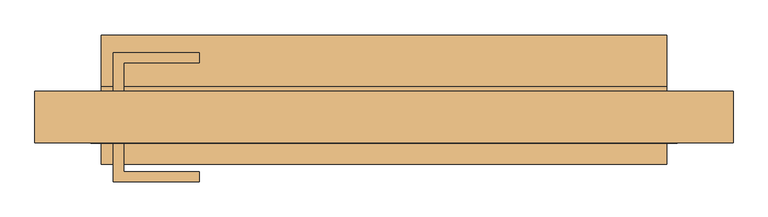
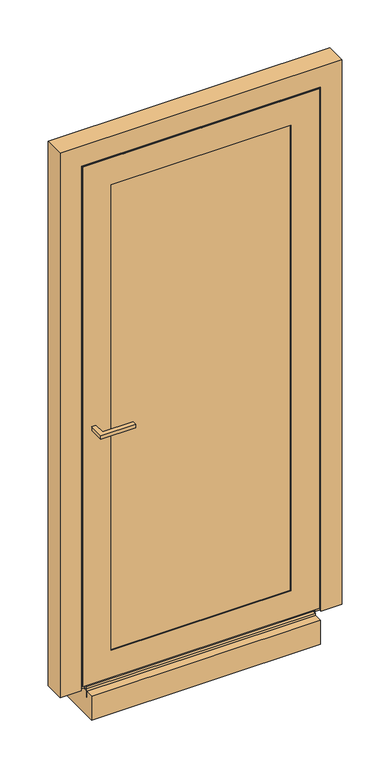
"""IFC4 building model written with IfcOpenShell, lengths in millimetres: door geometry, Reynaers_MasterLine 8_Door_Pivot_Inward Opening_Single Vent_Glass : Reynaers_MasterLine 8_Door_Pivot_Inward Opening_Single Vent_Glass."""

from ifc_helpers import new_model, si_unit, frame, origin, place, context, project, spatial, polyline, circle_curve, ellipse_curve, outline, extrude, faceted_brep, source, transform, mapped, element, save
from ifc_brep_helpers import plane_surface, revolved_surface, advanced_brep


def door_3701fab0(model_context):
    return source(origin(), model_context, "Body", "SolidModel", [
        extrude(outline(polyline([(-403.0, -80.0), (-388.0, -80.0), (-388.0, -122.5), (-275.5, -122.5), (-275.5, -137.5), (-403.0, -137.5), (-403.0, -80.0)])), frame((0.0, 0.0, 1000.0), z_axis=(0.0, 0.0, 1.0), x_axis=(1.0, 0.0, 0.0)), (0.0, 0.0, 1.0), 15.0),
        extrude(outline(polyline([(-403.0, -3.0), (-403.0, 54.5), (-275.5, 54.5), (-275.5, 39.5), (-388.0, 39.5), (-388.0, -3.0), (-403.0, -3.0)])), frame((0.0, 0.0, 1000.0), z_axis=(0.0, 0.0, 1.0), x_axis=(1.0, 0.0, 0.0)), (0.0, 0.0, 1.0), 15.0),
        extrude(outline(polyline([(4.0, -10.0030129), (4.0, -33.0), (81.0, -33.0), (81.0, -103.0), (-110.9534375, -103.0), (-110.9534375, -10.0030129), (4.0, -10.0030129)])), frame((-421.4999998, 0.0, 0.0), z_axis=(1.0, 0.0, 0.0), x_axis=(0.0, 1.0, 0.0)), (0.0, 0.0, 1.0), 842.9999996),
        advanced_brep(
        [(-444.4999999, -71.1998182, 0.0), (-444.4999999, -13.5000019, 0.0), (-447.5000018, -13.5000019, 0.0), (-447.5000018, -4.7990019, 0.0), (-452.5005018, -4.7990019, 0.0), (-452.5005018, -6.8000019, 0.0), (-462.5005018, -6.8000019, 0.0), (-462.5005018, -3.0, 0.0), (-416.5000018, -3.0, 0.0), (-416.5000018, -11.8001867, 0.0), (-418.6670221, -11.8001867, 0.0), (-421.4999998, -12.9155527, 0.0), (-421.4999998, -74.9998182, 0.0), (-423.6999999, -74.9998182, 0.0), (-423.6999999, -71.1998182, 0.0), (200.0, -71.1998182, 2044.4999999), (200.0, -71.1998182, 2023.6999999), (200.0, -74.9998182, 2023.6999999), (200.0, -74.9998182, 2021.4999998), (200.0, -12.9155527, 2021.4999998), (200.0, -11.8001867, 2018.6670221), (200.0, -11.8001867, 2016.5000018), (200.0, -3.0, 2016.5000018), (200.0, -3.0, 2047.5000018), (200.0, -13.5000019, 2047.5000018), (200.0, -13.5000019, 2044.4999999), (-423.6999999, -71.1998182, 2023.6999999), (-423.6999999, -74.9998182, 2023.6999999), (-421.4999998, -74.9998182, 2021.4999998), (-421.4999998, -12.9155527, 2021.4999998), (-418.6670221, -11.8001867, 2018.6670221), (-416.5000018, -11.8001867, 2016.5000018), (-416.5000018, -3.0, 2016.5000018), (-462.5005018, -6.8000019, 2062.5005018), (123.0, -6.8000019, 2062.5005018), (123.0, -3.0, 2062.5005018), (-462.5005018, -3.0, 2062.5005018), (-452.5005018, -4.7990019, 2052.5005018), (123.0, -4.7990019, 2052.5005018), (123.0, -6.8000019, 2052.5005018), (-452.5005018, -6.8000019, 2052.5005018), (123.0, -3.0, 2047.5000018), (123.0, -4.7990019, 2047.5000018), (-447.5000018, -4.7990019, 2047.5000018), (-447.5000018, -13.5000019, 2047.5000018), (-444.4999999, -13.5000019, 2044.4999999), (-444.4999999, -71.1998182, 2044.4999999)],
        [
            (0, 1),
            (1, 2),
            (2, 3),
            (3, 4),
            (4, 5),
            (5, 6),
            (6, 7),
            (7, 8),
            (8, 9),
            (9, 10),
            (10, 11, circle_curve(frame((-420.500002, -11.3000019, 0.0), z_axis=(0.0, 0.0, 1.0), x_axis=(1.0, 0.0, 0.0)), 1.9)),
            (11, 12),
            (12, 13),
            (13, 14),
            (14, 0),
            (15, 16),
            (16, 17),
            (17, 18),
            (18, 19),
            (19, 20, circle_curve(frame((200.0, -11.3000019, 2020.500002), z_axis=(-1.0, 0.0, 0.0), x_axis=(0.0, 0.0, -1.0)), 1.9)),
            (20, 21),
            (21, 22),
            (22, 23),
            (23, 24),
            (24, 25),
            (25, 15),
            (16, 26),
            (26, 27),
            (27, 17),
            (18, 28),
            (28, 29),
            (29, 19),
            (29, 30, ellipse_curve(frame((-420.500002, -11.3000019, 2020.500002), z_axis=(-0.7071067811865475, 0.0, -0.7071067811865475), x_axis=(0.7071067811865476, 0.0, -0.7071067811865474)), 2.6870058, 1.9)),
            (30, 20),
            (21, 31),
            (31, 32),
            (32, 22),
            (33, 34),
            (34, 35),
            (35, 36),
            (36, 33),
            (37, 38),
            (38, 39),
            (39, 40),
            (40, 37),
            (23, 41),
            (41, 42),
            (42, 43),
            (43, 44),
            (44, 24),
            (25, 45),
            (45, 46),
            (46, 15),
            (14, 26),
            (46, 0),
            (13, 27),
            (12, 28),
            (11, 29),
            (10, 30),
            (9, 31),
            (8, 32),
            (7, 36),
            (35, 41),
            (6, 33),
            (5, 40),
            (39, 34),
            (4, 37),
            (3, 43),
            (42, 38),
            (2, 44),
            (1, 45),
        ],
        [
            plane_surface(frame((-436.5, -3.0, 0.0), z_axis=(0.0, 0.0, -1.0), x_axis=(0.0, -1.0, 0.0))),
            plane_surface(frame((200.0, -3.0, 2036.5), z_axis=(1.0, 0.0, 0.0), x_axis=(0.0, -1.0, 0.0))),
            plane_surface(frame((-423.6999999, -71.1998182, 2023.6999999), z_axis=(0.0, 0.0, 1.0), x_axis=(1.0, 0.0, 0.0))),
            plane_surface(frame((-421.4999998, -74.9998182, 2021.4999998), z_axis=(0.0, 0.0, -1.0), x_axis=(1.0, 0.0, 0.0))),
            revolved_surface(polyline([(200.0, -11.3000019, 2018.600002), (-422.4000020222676, -11.3000019, 2018.600002)]), (-436.5, -11.3000019, 2020.500002), (1.0, 0.0, 0.0)),
            plane_surface(frame((-416.5000018, -11.8001867, 2016.5000018), z_axis=(0.0, 0.0, -1.0), x_axis=(1.0, 0.0, 0.0))),
            plane_surface(frame((-462.5005018, -3.0, 2062.5005018), z_axis=(0.0, 0.0, 1.0), x_axis=(1.0, 0.0, 0.0))),
            plane_surface(frame((-452.5005018, -6.8000019, 2052.5005018), z_axis=(0.0, 0.0, -1.0), x_axis=(1.0, 0.0, 0.0))),
            plane_surface(frame((-447.5000018, -4.7990019, 2047.5000018), z_axis=(0.0, 0.0, 1.0), x_axis=(1.0, 0.0, 0.0))),
            plane_surface(frame((-444.4999999, -13.5000019, 2044.4999999), z_axis=(0.0, 0.0, 1.0), x_axis=(1.0, 0.0, 0.0))),
            plane_surface(frame((-444.4999999, -71.1998182, 0.0), z_axis=(0.0, -1.0, 0.0), x_axis=(0.0, 0.0, 1.0))),
            plane_surface(frame((-423.6999999, -71.1998182, 0.0), z_axis=(-1.0, 0.0, 0.0), x_axis=(0.0, 0.0, 1.0))),
            plane_surface(frame((-423.6999999, -74.9998182, 0.0), z_axis=(0.0, -1.0, 0.0), x_axis=(0.0, 0.0, 1.0))),
            plane_surface(frame((-421.4999998, -74.9998182, 0.0), z_axis=(1.0, 0.0, 0.0), x_axis=(0.0, 0.0, 1.0))),
            revolved_surface(polyline([(-418.600002, -11.3000019, 2022.4000020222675), (-418.600002, -11.3000019, 0.0)]), (-420.500002, -11.3000019, 0.0), (0.0, 0.0, 1.0)),
            plane_surface(frame((-418.6670221, -11.8001867, 0.0), z_axis=(0.0, -1.0, 0.0), x_axis=(0.0, 0.0, 1.0))),
            plane_surface(frame((-416.5000018, -11.8001867, 0.0), z_axis=(1.0, 0.0, 0.0), x_axis=(0.0, 0.0, 1.0))),
            plane_surface(frame((-416.5000018, -3.0, 0.0), z_axis=(0.0, 1.0, 0.0), x_axis=(0.0, 0.0, 1.0))),
            plane_surface(frame((-462.5005018, -3.0, 0.0), z_axis=(-1.0, 0.0, 0.0), x_axis=(0.0, 0.0, 1.0))),
            plane_surface(frame((-462.5005018, -6.8000019, 0.0), z_axis=(0.0, -1.0, 0.0), x_axis=(0.0, 0.0, 1.0))),
            plane_surface(frame((-452.5005018, -6.8000019, 0.0), z_axis=(1.0, 0.0, 0.0), x_axis=(0.0, 0.0, 1.0))),
            plane_surface(frame((-452.5005018, -4.7990019, 0.0), z_axis=(0.0, -1.0, 0.0), x_axis=(0.0, 0.0, 1.0))),
            plane_surface(frame((-447.5000018, -4.7990019, 0.0), z_axis=(-1.0, 0.0, 0.0), x_axis=(0.0, 0.0, 1.0))),
            plane_surface(frame((-447.5000018, -13.5000019, 0.0), z_axis=(0.0, -1.0, 0.0), x_axis=(0.0, 0.0, 1.0))),
            plane_surface(frame((-444.4999999, -13.5000019, 0.0), z_axis=(-1.0, 0.0, 0.0), x_axis=(0.0, 0.0, 1.0))),
            plane_surface(frame((123.0, -3.0, 2036.5), z_axis=(1.0, 0.0, 0.0), x_axis=(0.0, -1.0, 0.0))),
        ],
        [
            (0, [[1, 2, 3, 4, 5, 6, 7, 8, 9, 10, 11, 12, 13, 14, 15]]),
            (1, [[16, 17, 18, 19, 20, 21, 22, 23, 24, 25, 26]]),
            (2, [[27, 28, 29, -17]]),
            (3, [[30, 31, 32, -19]]),
            (4, [[-32, 33, 34, -20]]),
            (5, [[35, 36, 37, -22]]),
            (6, [[38, 39, 40, 41]]),
            (7, [[42, 43, 44, 45]]),
            (8, [[-24, 46, 47, 48, 49, 50]]),
            (9, [[51, 52, 53, -26]]),
            (10, [[54, -27, -16, -53, 55, -15]]),
            (11, [[56, -28, -54, -14]]),
            (12, [[57, -30, -18, -29, -56, -13]]),
            (13, [[58, -31, -57, -12]]),
            (14, [[59, -33, -58, -11]]),
            (15, [[60, -35, -21, -34, -59, -10]]),
            (16, [[61, -36, -60, -9]]),
            (17, [[62, -40, 63, -46, -23, -37, -61, -8]]),
            (18, [[64, -41, -62, -7]]),
            (19, [[65, -44, 66, -38, -64, -6]]),
            (20, [[67, -45, -65, -5]]),
            (21, [[68, -48, 69, -42, -67, -4]]),
            (22, [[70, -49, -68, -3]]),
            (23, [[71, -51, -25, -50, -70, -2]]),
            (24, [[-55, -52, -71, -1]]),
            (25, [[-63, -39, -66, -43, -69, -47]]),
        ],
    ),
        advanced_brep(
        [(-444.4999999, -71.1998182, 0.0), (-444.4999999, -13.5000019, 0.0), (-447.5000018, -13.5000019, 0.0), (-447.5000018, -4.7990019, 0.0), (-452.5005018, -4.7990019, 0.0), (-452.5005018, -6.8000019, 0.0), (-462.5005018, -6.8000019, 0.0), (-462.5005018, -3.0, 0.0), (-416.5000018, -3.0, 0.0), (-416.5000018, -11.8001867, 0.0), (-418.6670221, -11.8001867, 0.0), (-421.4999998, -12.9155527, 0.0), (-421.4999998, -74.9998182, 0.0), (-423.6999999, -74.9998182, 0.0), (-423.6999999, -71.1998182, 0.0), (200.0, -71.1998182, 2044.4999999), (200.0, -71.1998182, 2023.6999999), (200.0, -74.9998182, 2023.6999999), (200.0, -74.9998182, 2021.4999998), (200.0, -12.9155527, 2021.4999998), (200.0, -11.8001867, 2018.6670221), (200.0, -11.8001867, 2016.5000018), (200.0, -3.0, 2016.5000018), (200.0, -3.0, 2047.5000018), (200.0, -13.5000019, 2047.5000018), (200.0, -13.5000019, 2044.4999999), (-423.6999999, -71.1998182, 2023.6999999), (-423.6999999, -74.9998182, 2023.6999999), (-421.4999998, -74.9998182, 2021.4999998), (-421.4999998, -12.9155527, 2021.4999998), (-418.6670221, -11.8001867, 2018.6670221), (-416.5000018, -11.8001867, 2016.5000018), (-416.5000018, -3.0, 2016.5000018), (-462.5005018, -6.8000019, 2062.5005018), (123.0, -6.8000019, 2062.5005018), (123.0, -3.0, 2062.5005018), (-462.5005018, -3.0, 2062.5005018), (-452.5005018, -4.7990019, 2052.5005018), (123.0, -4.7990019, 2052.5005018), (123.0, -6.8000019, 2052.5005018), (-452.5005018, -6.8000019, 2052.5005018), (123.0, -3.0, 2047.5000018), (123.0, -4.7990019, 2047.5000018), (-447.5000018, -4.7990019, 2047.5000018), (-447.5000018, -13.5000019, 2047.5000018), (-444.4999999, -13.5000019, 2044.4999999), (-444.4999999, -71.1998182, 2044.4999999)],
        [
            (0, 1),
            (1, 2),
            (2, 3),
            (3, 4),
            (4, 5),
            (5, 6),
            (6, 7),
            (7, 8),
            (8, 9),
            (9, 10),
            (10, 11, circle_curve(frame((-420.500002, -11.3000019, 0.0), z_axis=(0.0, 0.0, 1.0), x_axis=(1.0, 0.0, 0.0)), 1.9)),
            (11, 12),
            (12, 13),
            (13, 14),
            (14, 0),
            (15, 16),
            (16, 17),
            (17, 18),
            (18, 19),
            (19, 20, circle_curve(frame((200.0, -11.3000019, 2020.500002), z_axis=(-1.0, 0.0, 0.0), x_axis=(0.0, 0.0, -1.0)), 1.9)),
            (20, 21),
            (21, 22),
            (22, 23),
            (23, 24),
            (24, 25),
            (25, 15),
            (16, 26),
            (26, 27),
            (27, 17),
            (18, 28),
            (28, 29),
            (29, 19),
            (29, 30, ellipse_curve(frame((-420.500002, -11.3000019, 2020.500002), z_axis=(-0.7071067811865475, 0.0, -0.7071067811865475), x_axis=(0.7071067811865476, 0.0, -0.7071067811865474)), 2.6870058, 1.9)),
            (30, 20),
            (21, 31),
            (31, 32),
            (32, 22),
            (33, 34),
            (34, 35),
            (35, 36),
            (36, 33),
            (37, 38),
            (38, 39),
            (39, 40),
            (40, 37),
            (23, 41),
            (41, 42),
            (42, 43),
            (43, 44),
            (44, 24),
            (25, 45),
            (45, 46),
            (46, 15),
            (14, 26),
            (46, 0),
            (13, 27),
            (12, 28),
            (11, 29),
            (10, 30),
            (9, 31),
            (8, 32),
            (7, 36),
            (35, 41),
            (6, 33),
            (5, 40),
            (39, 34),
            (4, 37),
            (3, 43),
            (42, 38),
            (2, 44),
            (1, 45),
        ],
        [
            plane_surface(frame((-436.5, -3.0, 0.0), z_axis=(0.0, 0.0, -1.0), x_axis=(0.0, -1.0, 0.0))),
            plane_surface(frame((200.0, -3.0, 2036.5), z_axis=(1.0, 0.0, 0.0), x_axis=(0.0, -1.0, 0.0))),
            plane_surface(frame((-423.6999999, -71.1998182, 2023.6999999), z_axis=(0.0, 0.0, 1.0), x_axis=(1.0, 0.0, 0.0))),
            plane_surface(frame((-421.4999998, -74.9998182, 2021.4999998), z_axis=(0.0, 0.0, -1.0), x_axis=(1.0, 0.0, 0.0))),
            revolved_surface(polyline([(200.0, -11.3000019, 2018.600002), (-422.4000020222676, -11.3000019, 2018.600002)]), (-436.5, -11.3000019, 2020.500002), (1.0, 0.0, 0.0)),
            plane_surface(frame((-416.5000018, -11.8001867, 2016.5000018), z_axis=(0.0, 0.0, -1.0), x_axis=(1.0, 0.0, 0.0))),
            plane_surface(frame((-462.5005018, -3.0, 2062.5005018), z_axis=(0.0, 0.0, 1.0), x_axis=(1.0, 0.0, 0.0))),
            plane_surface(frame((-452.5005018, -6.8000019, 2052.5005018), z_axis=(0.0, 0.0, -1.0), x_axis=(1.0, 0.0, 0.0))),
            plane_surface(frame((-447.5000018, -4.7990019, 2047.5000018), z_axis=(0.0, 0.0, 1.0), x_axis=(1.0, 0.0, 0.0))),
            plane_surface(frame((-444.4999999, -13.5000019, 2044.4999999), z_axis=(0.0, 0.0, 1.0), x_axis=(1.0, 0.0, 0.0))),
            plane_surface(frame((-444.4999999, -71.1998182, 0.0), z_axis=(0.0, -1.0, 0.0), x_axis=(0.0, 0.0, 1.0))),
            plane_surface(frame((-423.6999999, -71.1998182, 0.0), z_axis=(-1.0, 0.0, 0.0), x_axis=(0.0, 0.0, 1.0))),
            plane_surface(frame((-423.6999999, -74.9998182, 0.0), z_axis=(0.0, -1.0, 0.0), x_axis=(0.0, 0.0, 1.0))),
            plane_surface(frame((-421.4999998, -74.9998182, 0.0), z_axis=(1.0, 0.0, 0.0), x_axis=(0.0, 0.0, 1.0))),
            revolved_surface(polyline([(-418.600002, -11.3000019, 2022.4000020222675), (-418.600002, -11.3000019, 0.0)]), (-420.500002, -11.3000019, 0.0), (0.0, 0.0, 1.0)),
            plane_surface(frame((-418.6670221, -11.8001867, 0.0), z_axis=(0.0, -1.0, 0.0), x_axis=(0.0, 0.0, 1.0))),
            plane_surface(frame((-416.5000018, -11.8001867, 0.0), z_axis=(1.0, 0.0, 0.0), x_axis=(0.0, 0.0, 1.0))),
            plane_surface(frame((-416.5000018, -3.0, 0.0), z_axis=(0.0, 1.0, 0.0), x_axis=(0.0, 0.0, 1.0))),
            plane_surface(frame((-462.5005018, -3.0, 0.0), z_axis=(-1.0, 0.0, 0.0), x_axis=(0.0, 0.0, 1.0))),
            plane_surface(frame((-462.5005018, -6.8000019, 0.0), z_axis=(0.0, -1.0, 0.0), x_axis=(0.0, 0.0, 1.0))),
            plane_surface(frame((-452.5005018, -6.8000019, 0.0), z_axis=(1.0, 0.0, 0.0), x_axis=(0.0, 0.0, 1.0))),
            plane_surface(frame((-452.5005018, -4.7990019, 0.0), z_axis=(0.0, -1.0, 0.0), x_axis=(0.0, 0.0, 1.0))),
            plane_surface(frame((-447.5000018, -4.7990019, 0.0), z_axis=(-1.0, 0.0, 0.0), x_axis=(0.0, 0.0, 1.0))),
            plane_surface(frame((-447.5000018, -13.5000019, 0.0), z_axis=(0.0, -1.0, 0.0), x_axis=(0.0, 0.0, 1.0))),
            plane_surface(frame((-444.4999999, -13.5000019, 0.0), z_axis=(-1.0, 0.0, 0.0), x_axis=(0.0, 0.0, 1.0))),
            plane_surface(frame((123.0, -3.0, 2036.5), z_axis=(1.0, 0.0, 0.0), x_axis=(0.0, -1.0, 0.0))),
        ],
        [
            (0, [[1, 2, 3, 4, 5, 6, 7, 8, 9, 10, 11, 12, 13, 14, 15]]),
            (1, [[16, 17, 18, 19, 20, 21, 22, 23, 24, 25, 26]]),
            (2, [[27, 28, 29, -17]]),
            (3, [[30, 31, 32, -19]]),
            (4, [[-32, 33, 34, -20]]),
            (5, [[35, 36, 37, -22]]),
            (6, [[38, 39, 40, 41]]),
            (7, [[42, 43, 44, 45]]),
            (8, [[-24, 46, 47, 48, 49, 50]]),
            (9, [[51, 52, 53, -26]]),
            (10, [[54, -27, -16, -53, 55, -15]]),
            (11, [[56, -28, -54, -14]]),
            (12, [[57, -30, -18, -29, -56, -13]]),
            (13, [[58, -31, -57, -12]]),
            (14, [[59, -33, -58, -11]]),
            (15, [[60, -35, -21, -34, -59, -10]]),
            (16, [[61, -36, -60, -9]]),
            (17, [[62, -40, 63, -46, -23, -37, -61, -8]]),
            (18, [[64, -41, -62, -7]]),
            (19, [[65, -44, 66, -38, -64, -6]]),
            (20, [[67, -45, -65, -5]]),
            (21, [[68, -48, 69, -42, -67, -4]]),
            (22, [[70, -49, -68, -3]]),
            (23, [[71, -51, -25, -50, -70, -2]]),
            (24, [[-55, -52, -71, -1]]),
            (25, [[-63, -39, -66, -43, -69, -47]]),
        ],
    ),
        advanced_brep(
        [(123.0, -3.0, 2062.5005018), (123.0, -3.0, 2047.5000018), (123.0, -4.7990019, 2047.5000018), (123.0, -4.7990019, 2052.5005018), (123.0, -6.8000019, 2052.5005018), (123.0, -6.8000019, 2062.5005018), (444.4999999, -71.1998182, 0.0), (423.6999999, -71.1998182, 0.0), (423.6999999, -74.9998182, 0.0), (421.4999998, -74.9998182, 0.0), (421.4999998, -12.9155527, 0.0), (418.6670221, -11.8001867, 0.0), (416.5000018, -11.8001867, 0.0), (416.5000018, -3.0, 0.0), (462.5005018, -3.0, 0.0), (462.5005018, -6.8000019, 0.0), (452.5005018, -6.8000019, 0.0), (452.5005018, -4.7990019, 0.0), (447.5000018, -4.7990019, 0.0), (447.5000018, -13.5000019, 0.0), (444.4999999, -13.5000019, 0.0), (444.4999999, -71.1998182, 2044.4999999), (200.0, -71.1998182, 2044.4999999), (200.0, -71.1998182, 2023.6999999), (423.6999999, -71.1998182, 2023.6999999), (200.0, -74.9998182, 2023.6999999), (423.6999999, -74.9998182, 2023.6999999), (200.0, -74.9998182, 2021.4999998), (421.4999998, -74.9998182, 2021.4999998), (200.0, -12.9155527, 2021.4999998), (421.4999998, -12.9155527, 2021.4999998), (200.0, -11.8001867, 2018.6670221), (418.6670221, -11.8001867, 2018.6670221), (200.0, -11.8001867, 2016.5000018), (416.5000018, -11.8001867, 2016.5000018), (200.0, -3.0, 2016.5000018), (416.5000018, -3.0, 2016.5000018), (200.0, -3.0, 2047.5000018), (462.5005018, -3.0, 2062.5005018), (462.5005018, -6.8000019, 2062.5005018), (452.5005018, -6.8000019, 2052.5005018), (452.5005018, -4.7990019, 2052.5005018), (200.0, -4.7990019, 2047.5000018), (447.5000018, -4.7990019, 2047.5000018), (200.0, -13.5000019, 2047.5000018), (447.5000018, -13.5000019, 2047.5000018), (200.0, -13.5000019, 2044.4999999), (444.4999999, -13.5000019, 2044.4999999)],
        [
            (0, 1),
            (1, 2),
            (2, 3),
            (3, 4),
            (4, 5),
            (5, 0),
            (6, 7),
            (7, 8),
            (8, 9),
            (9, 10),
            (10, 11, circle_curve(frame((420.500002, -11.3000019, 0.0), z_axis=(0.0, 0.0, 1.0), x_axis=(-1.0, 0.0, 0.0)), 1.9)),
            (11, 12),
            (12, 13),
            (13, 14),
            (14, 15),
            (15, 16),
            (16, 17),
            (17, 18),
            (18, 19),
            (19, 20),
            (20, 6),
            (6, 21),
            (21, 22),
            (22, 23),
            (23, 24),
            (24, 7),
            (23, 25),
            (25, 26),
            (26, 24),
            (8, 26),
            (25, 27),
            (27, 28),
            (28, 9),
            (27, 29),
            (29, 30),
            (30, 28),
            (29, 31, circle_curve(frame((200.0, -11.3000019, 2020.500002), z_axis=(-1.0, 0.0, 0.0), x_axis=(0.0, 0.0, -1.0)), 1.9)),
            (31, 32),
            (32, 30, ellipse_curve(frame((420.500002, -11.3000019, 2020.500002), z_axis=(0.7071067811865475, 0.0, -0.7071067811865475), x_axis=(0.7071067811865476, 0.0, 0.7071067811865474)), 2.6870058, 1.9)),
            (11, 32),
            (31, 33),
            (33, 34),
            (34, 12),
            (33, 35),
            (35, 36),
            (36, 34),
            (13, 36),
            (35, 37),
            (37, 1),
            (0, 38),
            (38, 14),
            (5, 39),
            (39, 38),
            (4, 40),
            (40, 16),
            (15, 39),
            (3, 41),
            (41, 40),
            (2, 42),
            (42, 43),
            (43, 18),
            (17, 41),
            (42, 44),
            (44, 45),
            (45, 43),
            (19, 45),
            (44, 46),
            (46, 47),
            (47, 20),
            (46, 22),
            (21, 47),
            (30, 10),
            (42, 37),
        ],
        [
            plane_surface(frame((123.0, -3.0, 2036.5), z_axis=(-1.0, 0.0, 0.0), x_axis=(0.0, -1.0, 0.0))),
            plane_surface(frame((436.5, -3.0, 0.0), z_axis=(0.0, 0.0, -1.0), x_axis=(0.0, -1.0, 0.0))),
            plane_surface(frame((123.0, -71.1998182, 2044.4999999), z_axis=(0.0, -1.0, 0.0), x_axis=(1.0, 0.0, 0.0))),
            plane_surface(frame((123.0, -71.1998182, 2023.6999999), z_axis=(0.0, 0.0, 1.0), x_axis=(1.0, 0.0, 0.0))),
            plane_surface(frame((123.0, -74.9998182, 2023.6999999), z_axis=(0.0, -1.0, 0.0), x_axis=(1.0, 0.0, 0.0))),
            plane_surface(frame((123.0, -74.9998182, 2021.4999998), z_axis=(0.0, 0.0, -1.0), x_axis=(1.0, 0.0, 0.0))),
            revolved_surface(polyline([(422.4000020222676, -11.3000019, 2018.600002), (200.0, -11.3000019, 2018.600002)]), (123.0, -11.3000019, 2020.500002), (1.0, 0.0, 0.0)),
            plane_surface(frame((123.0, -11.8001867, 2018.6670221), z_axis=(0.0, -1.0, 0.0), x_axis=(1.0, 0.0, 0.0))),
            plane_surface(frame((123.0, -11.8001867, 2016.5000018), z_axis=(0.0, 0.0, -1.0), x_axis=(1.0, 0.0, 0.0))),
            plane_surface(frame((123.0, -3.0, 2016.5000018), z_axis=(0.0, 1.0, 0.0), x_axis=(1.0, 0.0, 0.0))),
            plane_surface(frame((123.0, -3.0, 2062.5005018), z_axis=(0.0, 0.0, 1.0), x_axis=(1.0, 0.0, 0.0))),
            plane_surface(frame((123.0, -6.8000019, 2062.5005018), z_axis=(0.0, -1.0, 0.0), x_axis=(1.0, 0.0, 0.0))),
            plane_surface(frame((123.0, -6.8000019, 2052.5005018), z_axis=(0.0, 0.0, -1.0), x_axis=(1.0, 0.0, 0.0))),
            plane_surface(frame((123.0, -4.7990019, 2052.5005018), z_axis=(0.0, -1.0, 0.0), x_axis=(1.0, 0.0, 0.0))),
            plane_surface(frame((123.0, -4.7990019, 2047.5000018), z_axis=(0.0, 0.0, 1.0), x_axis=(1.0, 0.0, 0.0))),
            plane_surface(frame((123.0, -13.5000019, 2047.5000018), z_axis=(0.0, -1.0, 0.0), x_axis=(1.0, 0.0, 0.0))),
            plane_surface(frame((123.0, -13.5000019, 2044.4999999), z_axis=(0.0, 0.0, 1.0), x_axis=(1.0, 0.0, 0.0))),
            plane_surface(frame((423.6999999, -71.1998182, 2023.6999999), z_axis=(1.0, 0.0, 0.0), x_axis=(0.0, 0.0, -1.0))),
            plane_surface(frame((421.4999998, -74.9998182, 2021.4999998), z_axis=(-1.0, 0.0, 0.0), x_axis=(0.0, 0.0, -1.0))),
            revolved_surface(polyline([(418.600002, -11.3000019, 0.0), (418.600002, -11.3000019, 2022.4000020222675)]), (420.500002, -11.3000019, 2036.5), (0.0, 0.0, -1.0)),
            plane_surface(frame((416.5000018, -11.8001867, 2016.5000018), z_axis=(-1.0, 0.0, 0.0), x_axis=(0.0, 0.0, -1.0))),
            plane_surface(frame((462.5005018, -3.0, 2062.5005018), z_axis=(1.0, 0.0, 0.0), x_axis=(0.0, 0.0, -1.0))),
            plane_surface(frame((452.5005018, -6.8000019, 2052.5005018), z_axis=(-1.0, 0.0, 0.0), x_axis=(0.0, 0.0, -1.0))),
            plane_surface(frame((447.5000018, -4.7990019, 2047.5000018), z_axis=(1.0, 0.0, 0.0), x_axis=(0.0, 0.0, -1.0))),
            plane_surface(frame((444.4999999, -13.5000019, 2044.4999999), z_axis=(1.0, 0.0, 0.0), x_axis=(0.0, 0.0, -1.0))),
            plane_surface(frame((200.0, -3.0, 2036.5), z_axis=(-1.0, 0.0, 0.0), x_axis=(0.0, -1.0, 0.0))),
            plane_surface(frame((123.0, -3.0, 2047.5000018), z_axis=(0.0, 0.0, -1.0), x_axis=(1.0, 0.0, 0.0))),
        ],
        [
            (0, [[1, 2, 3, 4, 5, 6]]),
            (1, [[7, 8, 9, 10, 11, 12, 13, 14, 15, 16, 17, 18, 19, 20, 21]]),
            (2, [[22, 23, 24, 25, 26, -7]]),
            (3, [[-25, 27, 28, 29]]),
            (4, [[30, -28, 31, 32, 33, -9]]),
            (5, [[-32, 34, 35, 36]]),
            (6, [[-35, 37, 38, 39]]),
            (7, [[40, -38, 41, 42, 43, -12]]),
            (8, [[-42, 44, 45, 46]]),
            (9, [[47, -45, 48, 49, -1, 50, 51, -14]]),
            (10, [[52, 53, -50, -6]]),
            (11, [[54, 55, -16, 56, -52, -5]]),
            (12, [[57, 58, -54, -4]]),
            (13, [[59, 60, 61, -18, 62, -57, -3]]),
            (14, [[-60, 63, 64, 65]]),
            (15, [[66, -64, 67, 68, 69, -20]]),
            (16, [[-68, 70, -23, 71]]),
            (17, [[-26, -29, -30, -8]]),
            (18, [[-33, -36, 72, -10]]),
            (19, [[-72, -39, -40, -11]]),
            (20, [[-43, -46, -47, -13]]),
            (21, [[-51, -53, -56, -15]]),
            (22, [[-55, -58, -62, -17]]),
            (23, [[-61, -65, -66, -19]]),
            (24, [[-69, -71, -22, -21]]),
            (25, [[-48, -44, -41, -37, -34, -31, -27, -24, -70, -67, -63, 73]]),
            (26, [[-59, -2, -49, -73]]),
        ],
    ),
        extrude(outline(polyline([(-3.0, 40.0000014), (-3.0, 7.0), (-4.5999991, 7.0), (-4.5999991, 20.9999991), (-40.5000003, 20.9999991), (-40.5000003, 29.0000002), (-11.8001867, 29.0000002), (-11.8001867, 40.0000014), (-3.0, 40.0000014)])), frame((-410.4999986, 0.0, 0.0), z_axis=(1.0, 0.0, 0.0), x_axis=(0.0, 1.0, 0.0)), (0.0, 0.0, 1.0), 820.9999971),
        extrude(outline(polyline([(91.5, 359.0), (1959.0, 359.0), (1959.0, -359.0), (91.5, -359.0), (91.5, 359.0)]), holes=[polyline([(116.5000004, -333.9999996), (1933.9999996, -333.9999996), (1933.9999996, 333.9999996), (116.5000004, 333.9999996), (116.5000004, -333.9999996)])]), frame((0.0, -45.0, 0.0), z_axis=(0.0, 1.0, 0.0), x_axis=(0.0, 0.0, 1.0)), (0.0, 0.0, 1.0), 42.0),
        extrude(outline(polyline([(-69.0499782, 29.0000002), (-45.0499779, 29.0000002), (-45.0499779, 0.0), (-3.0, 0.0), (-3.0, -33.0), (-80.0, -33.0), (-80.0, 0.0), (-69.0499782, 0.0), (-69.0499782, 29.0000002)])), frame((-421.4999998, 0.0, 0.0), z_axis=(1.0, 0.0, 0.0), x_axis=(0.0, 1.0, 0.0)), (0.0, 0.0, 1.0), 842.9999996),
        faceted_brep([(-442.5, -80.0, 0.0), (-520.0, -80.0, 0.0), (-520.0, -3.0, 0.0), (-468.5, -3.0, 0.0), (-468.5, -11.8001837, 0.0), (-457.5, -11.8001837, 0.0), (-457.5, -76.2, 0.0), (-442.5, -76.2, 0.0), (442.5, -80.0, 0.0), (442.5, -76.2, 0.0), (457.5, -76.2, 0.0), (457.5, -11.8001837, 0.0), (468.5, -11.8001837, 0.0), (468.5, -3.0, 0.0), (520.0, -3.0, 0.0), (520.0, -80.0, 0.0), (-442.5, -76.2, 2042.5), (-442.5, -80.0, 2042.5), (-457.5, -76.2, 2057.5), (457.5, -76.2, 2057.5), (442.5, -76.2, 2042.5), (-457.5, -11.8001837, 2057.5), (-468.5, -11.8001837, 2068.5), (468.5, -11.8001837, 2068.5), (457.5, -11.8001837, 2057.5), (-468.5, -3.0, 2068.5), (-520.0, -3.0, 2120.0), (520.0, -3.0, 2120.0), (468.5, -3.0, 2068.5), (-520.0, -80.0, 2120.0), (442.5, -80.0, 2042.5), (520.0, -80.0, 2120.0)], [[[0, 1, 2, 3, 4, 5, 6, 7]], [[8, 9, 10, 11, 12, 13, 14, 15]], [[7, 16, 17, 0]], [[6, 18, 19, 10, 9, 20, 16, 7]], [[5, 21, 18, 6]], [[4, 22, 23, 12, 11, 24, 21, 5]], [[3, 25, 22, 4]], [[2, 26, 27, 14, 13, 28, 25, 3]], [[1, 29, 26, 2]], [[0, 17, 30, 8, 15, 31, 29, 1]], [[16, 20, 30, 17]], [[21, 24, 19, 18]], [[25, 28, 23, 22]], [[29, 31, 27, 26]], [[20, 9, 8, 30]], [[24, 11, 10, 19]], [[28, 13, 12, 23]], [[31, 15, 14, 27]]]),
        faceted_brep([(-421.4999998, -76.2001837, 29.0000002), (-421.4999998, -76.2001837, 2021.4999998), (-421.4999998, -11.8001867, 2021.4999998), (-421.4999998, -11.8001867, 29.0000002), (-436.4999997, -80.0, 14.0000003), (-436.4999997, -80.0, 2036.4999997), (-436.4999997, -76.2001837, 2036.4999997), (-436.4999997, -76.2001837, 14.0000003), (-331.9999997, -76.0, 118.5000003), (-331.9999997, -76.0, 1931.9999997), (-331.9999997, -80.0, 1931.9999997), (-331.9999997, -80.0, 118.5000003), (-359.0000003, -3.0, 91.4999997), (-359.0000003, -3.0, 1959.0000003), (-359.0000003, -76.0, 1959.0000003), (-359.0000003, -76.0, 91.4999997), (-410.4999986, -11.8001867, 40.0000014), (-410.4999986, -11.8001867, 2010.4999986), (-410.4999986, -3.0, 2010.4999986), (-410.4999986, -3.0, 40.0000014), (421.4999998, -76.2001837, 2021.4999998), (421.4999998, -11.8001867, 2021.4999998), (436.4999997, -80.0, 2036.4999997), (436.4999997, -76.2001837, 2036.4999997), (331.9999997, -76.0, 1931.9999997), (331.9999997, -80.0, 1931.9999997), (359.0000003, -3.0, 1959.0000003), (359.0000003, -76.0, 1959.0000003), (410.4999986, -11.8001867, 2010.4999986), (410.4999986, -3.0, 2010.4999986), (421.4999998, -76.2001837, 29.0000002), (421.4999998, -11.8001867, 29.0000002), (436.4999997, -80.0, 14.0000003), (436.4999997, -76.2001837, 14.0000003), (331.9999997, -76.0, 118.5000003), (331.9999997, -80.0, 118.5000003), (359.0000003, -3.0, 91.4999997), (359.0000003, -76.0, 91.4999997), (410.4999986, -11.8001867, 40.0000014), (410.4999986, -3.0, 40.0000014)], [[[0, 1, 2, 3]], [[4, 5, 6, 7]], [[8, 9, 10, 11]], [[12, 13, 14, 15]], [[16, 17, 18, 19]], [[1, 20, 21, 2]], [[5, 22, 23, 6]], [[9, 24, 25, 10]], [[13, 26, 27, 14]], [[17, 28, 29, 18]], [[20, 30, 31, 21]], [[22, 32, 33, 23]], [[24, 34, 35, 25]], [[26, 36, 37, 27]], [[28, 38, 39, 29]], [[30, 0, 3, 31]], [[7, 6, 23, 33], [1, 0, 30, 20]], [[32, 4, 7, 33]], [[5, 4, 32, 22], [11, 10, 25, 35]], [[34, 8, 11, 35]], [[15, 14, 27, 37], [9, 8, 34, 24]], [[36, 12, 15, 37]], [[19, 18, 29, 39], [13, 12, 36, 26]], [[38, 16, 19, 39]], [[3, 2, 21, 31], [17, 16, 38, 28]]]),
        extrude(outline(polyline([(351.0, -45.0), (351.0, -72.0), (-351.0, -72.0), (-351.0, -45.0), (351.0, -45.0)])), frame((0.0, 0.0, 99.5), z_axis=(0.0, 0.0, 1.0), x_axis=(1.0, 0.0, 0.0)), (0.0, 0.0, 1.0), 1851.5),
    ])


if __name__ == "__main__":
    model = new_model("IFC4")
    model_context = context("Model", 3, world=origin())
    ifc_project = project(units=[si_unit("LENGTHUNIT", "METRE", prefix="MILLI")], contexts=[model_context])
    site = spatial("IfcSite", under=ifc_project)
    building = spatial("IfcBuilding", under=site)
    placement = place(None, origin())
    door_shape = door_3701fab0(model_context)
    element("IfcDoor", 1, ObjectType="Reynaers_MasterLine 8_Door_Pivot_Inward Opening_Single Vent_Glass : Reynaers_MasterLine 8_Door_Pivot_Inward Opening_Single Vent_Glass", at=placement, inside=building, context=model_context, shape_type="MappedRepresentation", body=[
        mapped(door_shape, transform((0.0, 0.0, 0.0), x_axis=(1.0, 0.0, 0.0), y_axis=(0.0, 1.0, 0.0), z_axis=(0.0, 0.0, 1.0))),
    ])
    save(model, "model.ifc")
